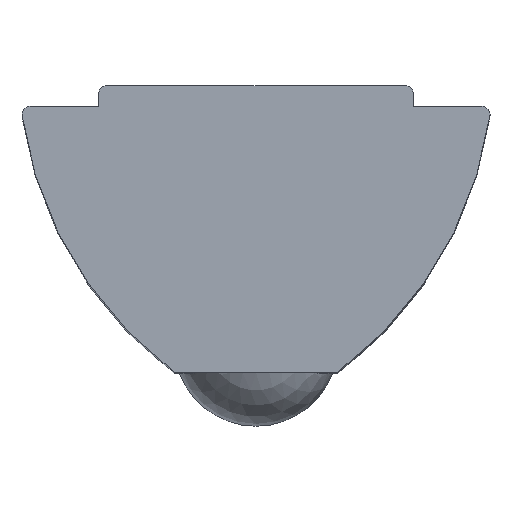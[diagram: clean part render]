
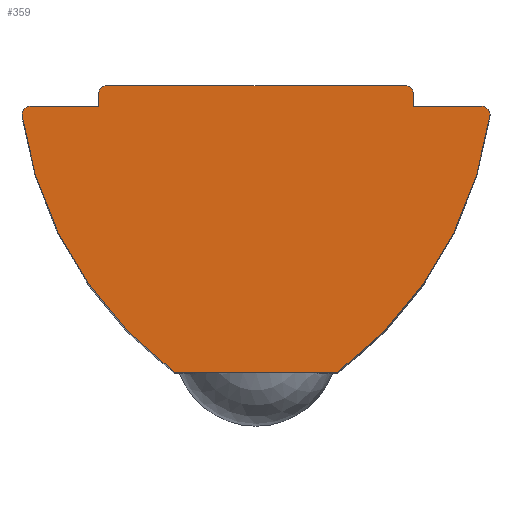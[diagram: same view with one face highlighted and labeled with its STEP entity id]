
A CAD part, top view. The second image highlights one B-rep face of the part: STEP entity #359.
In plain terms, the highlighted planar face has unit normal (0, 0, 1).
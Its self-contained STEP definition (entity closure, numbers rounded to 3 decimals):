
#15 = VECTOR ( 'NONE', #140, 1000. ) ;
#18 = VECTOR ( 'NONE', #261, 1000. ) ;
#19 = LINE ( 'NONE', #245, #18 ) ;
#23 = LINE ( 'NONE', #145, #15 ) ;
#26 = CIRCLE ( 'NONE', #565, 9.5 ) ;
#63 = VECTOR ( 'NONE', #400, 1000. ) ;
#72 = AXIS2_PLACEMENT_3D ( 'NONE', #549, #542, #539 ) ;
#76 = LINE ( 'NONE', #408, #63 ) ;
#80 = CIRCLE ( 'NONE', #72, 9.5 ) ;
#81 = VECTOR ( 'NONE', #617, 1000. ) ;
#117 = AXIS2_PLACEMENT_3D ( 'NONE', #811, #800, #818 ) ;
#125 = LINE ( 'NONE', #621, #134 ) ;
#134 = VECTOR ( 'NONE', #628, 1000. ) ;
#135 = VERTEX_POINT ( 'NONE', #158 ) ;
#140 = DIRECTION ( 'NONE',  ( 0., 1., 0. ) ) ;
#145 = CARTESIAN_POINT ( 'NONE',  ( -3.85, 0., 10. ) ) ;
#149 = DIRECTION ( 'NONE',  ( 1., 0., 0. ) ) ;
#151 = LINE ( 'NONE', #625, #81 ) ;
#152 = DIRECTION ( 'NONE',  ( 1., 0., 0. ) ) ;
#153 = DIRECTION ( 'NONE',  ( 0., 0., 1. ) ) ;
#156 = CARTESIAN_POINT ( 'NONE',  ( 3.65, 6.8, 10. ) ) ;
#158 = CARTESIAN_POINT ( 'NONE',  ( 3.85, 6.5, 10. ) ) ;
#167 = DIRECTION ( 'NONE',  ( 1., 0., 0. ) ) ;
#171 = DIRECTION ( 'NONE',  ( 0., 0., 1. ) ) ;
#173 = VECTOR ( 'NONE', #749, 1000. ) ;
#174 = CARTESIAN_POINT ( 'NONE',  ( 5.522, 6.3, 10. ) ) ;
#180 = CARTESIAN_POINT ( 'NONE',  ( 3.85, 6.8, 10. ) ) ;
#192 = LINE ( 'NONE', #760, #173 ) ;
#226 = CIRCLE ( 'NONE', #792, 0.2 ) ;
#237 = FACE_OUTER_BOUND ( 'NONE', #369, .T. ) ;
#239 = DIRECTION ( 'NONE',  ( 0., 0., -1. ) ) ;
#243 = CARTESIAN_POINT ( 'NONE',  ( -3.685, 7.611, 10. ) ) ;
#245 = CARTESIAN_POINT ( 'NONE',  ( 0., 6.5, 10. ) ) ;
#261 = DIRECTION ( 'NONE',  ( -1., 0., 0. ) ) ;
#264 = EDGE_CURVE ( 'NONE', #689, #546, #323, .T. ) ;
#289 = DIRECTION ( 'NONE',  ( 1., 0., 0. ) ) ;
#291 = DIRECTION ( 'NONE',  ( 0., 0., 1. ) ) ;
#297 = CARTESIAN_POINT ( 'NONE',  ( -5.522, 6.3, 10. ) ) ;
#323 = CIRCLE ( 'NONE', #117, 0.2 ) ;
#351 = AXIS2_PLACEMENT_3D ( 'NONE', #156, #153, #149 ) ;
#357 = EDGE_CURVE ( 'NONE', #434, #677, #226, .T. ) ;
#359 = ADVANCED_FACE ( 'NONE', ( #237 ), #821, .T. ) ;
#369 = EDGE_LOOP ( 'NONE', ( #490, #502, #505, #508, #511, #515, #520, #521, #523, #530, #533, #534, #536 ) ) ;
#386 = AXIS2_PLACEMENT_3D ( 'NONE', #174, #171, #167 ) ;
#389 = CARTESIAN_POINT ( 'NONE',  ( -2., 0., 10. ) ) ;
#397 = CARTESIAN_POINT ( 'NONE',  ( -3.65, 7., 10. ) ) ;
#400 = DIRECTION ( 'NONE',  ( -1., 0., 0. ) ) ;
#401 = VERTEX_POINT ( 'NONE', #780 ) ;
#408 = CARTESIAN_POINT ( 'NONE',  ( 0., 7., 10. ) ) ;
#434 = VERTEX_POINT ( 'NONE', #758 ) ;
#442 = EDGE_CURVE ( 'NONE', #713, #401, #192, .T. ) ;
#450 = VERTEX_POINT ( 'NONE', #743 ) ;
#460 = VERTEX_POINT ( 'NONE', #736 ) ;
#464 = VERTEX_POINT ( 'NONE', #740 ) ;
#484 = CARTESIAN_POINT ( 'NONE',  ( 5.72, 6.272, 10. ) ) ;
#487 = CARTESIAN_POINT ( 'NONE',  ( -5.72, 6.272, 10. ) ) ;
#490 = ORIENTED_EDGE ( 'NONE', *, *, #560, .F. ) ;
#498 = AXIS2_PLACEMENT_3D ( 'NONE', #297, #291, #289 ) ;
#502 = ORIENTED_EDGE ( 'NONE', *, *, #778, .T. ) ;
#505 = ORIENTED_EDGE ( 'NONE', *, *, #357, .T. ) ;
#508 = ORIENTED_EDGE ( 'NONE', *, *, #599, .T. ) ;
#511 = ORIENTED_EDGE ( 'NONE', *, *, #442, .T. ) ;
#515 = ORIENTED_EDGE ( 'NONE', *, *, #729, .F. ) ;
#520 = ORIENTED_EDGE ( 'NONE', *, *, #803, .T. ) ;
#521 = ORIENTED_EDGE ( 'NONE', *, *, #735, .T. ) ;
#523 = ORIENTED_EDGE ( 'NONE', *, *, #573, .T. ) ;
#530 = ORIENTED_EDGE ( 'NONE', *, *, #819, .T. ) ;
#533 = ORIENTED_EDGE ( 'NONE', *, *, #685, .T. ) ;
#534 = ORIENTED_EDGE ( 'NONE', *, *, #264, .T. ) ;
#536 = ORIENTED_EDGE ( 'NONE', *, *, #737, .F. ) ;
#539 = DIRECTION ( 'NONE',  ( 1., 0., 0. ) ) ;
#542 = DIRECTION ( 'NONE',  ( 0., 0., 1. ) ) ;
#546 = VERTEX_POINT ( 'NONE', #641 ) ;
#549 = CARTESIAN_POINT ( 'NONE',  ( 3.685, 7.611, 10. ) ) ;
#560 = EDGE_CURVE ( 'NONE', #587, #450, #125, .T. ) ;
#565 = AXIS2_PLACEMENT_3D ( 'NONE', #243, #239, #152 ) ;
#573 = EDGE_CURVE ( 'NONE', #135, #824, #151, .T. ) ;
#587 = VERTEX_POINT ( 'NONE', #598 ) ;
#598 = CARTESIAN_POINT ( 'NONE',  ( -5.522, 6.5, 10. ) ) ;
#599 = EDGE_CURVE ( 'NONE', #677, #713, #80, .T. ) ;
#617 = DIRECTION ( 'NONE',  ( 0., 1., 0. ) ) ;
#621 = CARTESIAN_POINT ( 'NONE',  ( 0., 6.5, 10. ) ) ;
#625 = CARTESIAN_POINT ( 'NONE',  ( 3.85, 0., 10. ) ) ;
#628 = DIRECTION ( 'NONE',  ( 1., 0., 0. ) ) ;
#641 = CARTESIAN_POINT ( 'NONE',  ( -3.85, 6.8, 10. ) ) ;
#653 = VERTEX_POINT ( 'NONE', #484 ) ;
#677 = VERTEX_POINT ( 'NONE', #487 ) ;
#685 = EDGE_CURVE ( 'NONE', #460, #689, #76, .T. ) ;
#689 = VERTEX_POINT ( 'NONE', #397 ) ;
#713 = VERTEX_POINT ( 'NONE', #389 ) ;
#729 = EDGE_CURVE ( 'NONE', #653, #401, #26, .T. ) ;
#735 = EDGE_CURVE ( 'NONE', #464, #135, #19, .T. ) ;
#736 = CARTESIAN_POINT ( 'NONE',  ( 3.65, 7., 10. ) ) ;
#737 = EDGE_CURVE ( 'NONE', #450, #546, #23, .T. ) ;
#740 = CARTESIAN_POINT ( 'NONE',  ( 5.522, 6.5, 10. ) ) ;
#743 = CARTESIAN_POINT ( 'NONE',  ( -3.85, 6.5, 10. ) ) ;
#748 = AXIS2_PLACEMENT_3D ( 'NONE', #826, #813, #812 ) ;
#749 = DIRECTION ( 'NONE',  ( 1., 0., 0. ) ) ;
#758 = CARTESIAN_POINT ( 'NONE',  ( -5.722, 6.3, 10. ) ) ;
#760 = CARTESIAN_POINT ( 'NONE',  ( 0., 0., 10. ) ) ;
#778 = EDGE_CURVE ( 'NONE', #587, #434, #842, .T. ) ;
#780 = CARTESIAN_POINT ( 'NONE',  ( 2., 0., 10. ) ) ;
#782 = CIRCLE ( 'NONE', #386, 0.2 ) ;
#792 = AXIS2_PLACEMENT_3D ( 'NONE', #817, #816, #815 ) ;
#800 = DIRECTION ( 'NONE',  ( 0., 0., 1. ) ) ;
#803 = EDGE_CURVE ( 'NONE', #653, #464, #782, .T. ) ;
#811 = CARTESIAN_POINT ( 'NONE',  ( -3.65, 6.8, 10. ) ) ;
#812 = DIRECTION ( 'NONE',  ( 1., 0., 0. ) ) ;
#813 = DIRECTION ( 'NONE',  ( 0., 0., 1. ) ) ;
#815 = DIRECTION ( 'NONE',  ( 1., 0., 0. ) ) ;
#816 = DIRECTION ( 'NONE',  ( 0., 0., 1. ) ) ;
#817 = CARTESIAN_POINT ( 'NONE',  ( -5.522, 6.3, 10. ) ) ;
#818 = DIRECTION ( 'NONE',  ( 1., 0., 0. ) ) ;
#819 = EDGE_CURVE ( 'NONE', #824, #460, #827, .T. ) ;
#821 = PLANE ( 'NONE',  #748 ) ;
#824 = VERTEX_POINT ( 'NONE', #180 ) ;
#826 = CARTESIAN_POINT ( 'NONE',  ( 0., 0., 10. ) ) ;
#827 = CIRCLE ( 'NONE', #351, 0.2 ) ;
#842 = CIRCLE ( 'NONE', #498, 0.2 ) ;
